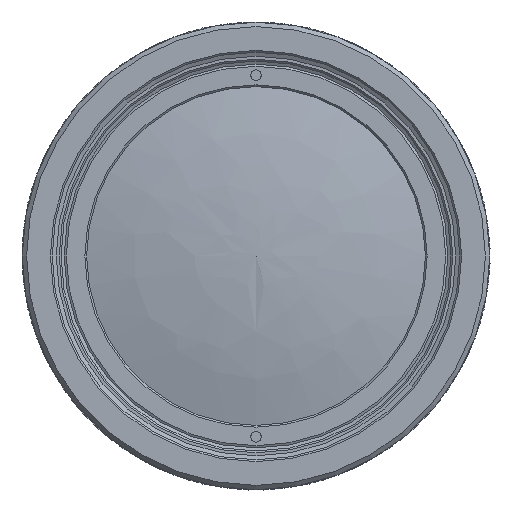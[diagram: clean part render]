
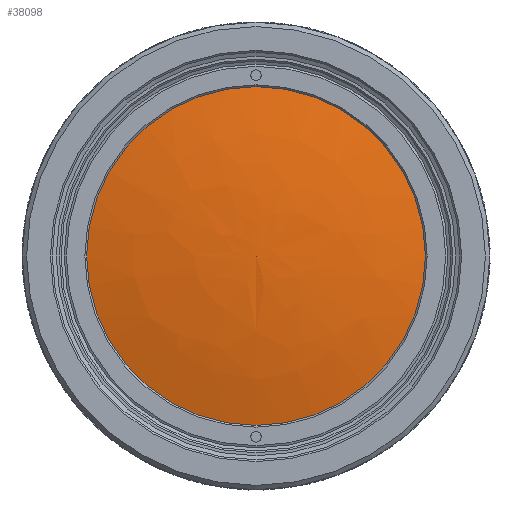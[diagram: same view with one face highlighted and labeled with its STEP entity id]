
A CAD part, front view. The second image highlights one B-rep face of the part: STEP entity #38098.
In plain terms, the highlighted face is a revolution surface.
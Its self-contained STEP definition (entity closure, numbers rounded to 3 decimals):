
#21403=SURFACE_OF_REVOLUTION('',#25635,#21405);
#21405=AXIS1_PLACEMENT('',#110998,#83432);
#25635=B_SPLINE_CURVE_WITH_KNOTS('',3,(#110994,#110995,#110996,#110997),
 .UNSPECIFIED.,.F.,.F.,(4,4),(0.,1.),.UNSPECIFIED.);
#25637=VERTEX_LOOP('',#61359);
#38098=ADVANCED_FACE('',(#39325,#39326),#21403,.F.);
#39325=FACE_BOUND('',#42457,.T.);
#39326=FACE_BOUND('',#25637,.T.);
#42457=EDGE_LOOP('',(#57047));
#57047=ORIENTED_EDGE('',*,*,#68654,.F.);
#61358=VERTEX_POINT('',#110991);
#61359=VERTEX_POINT('',#110993);
#68654=EDGE_CURVE('',#61358,#61358,#69495,.T.);
#69495=CIRCLE('',#73399,19.299);
#73399=AXIS2_PLACEMENT_3D('',#110990,#83428,#83429);
#83428=DIRECTION('',(0.,1.,0.));
#83429=DIRECTION('',(0.,0.,-1.));
#83432=DIRECTION('',(0.,-1.,0.));
#110990=CARTESIAN_POINT('',(0.,2.319,0.));
#110991=CARTESIAN_POINT('',(0.,2.319,-19.299));
#110993=CARTESIAN_POINT('',(0.,0.,0.));
#110994=CARTESIAN_POINT('',(0.,0.,0.));
#110995=CARTESIAN_POINT('',(0.,0.,-6.433));
#110996=CARTESIAN_POINT('',(0.,0.75,-12.866));
#110997=CARTESIAN_POINT('',(0.,2.319,-19.299));
#110998=CARTESIAN_POINT('',(0.,0.,0.));
